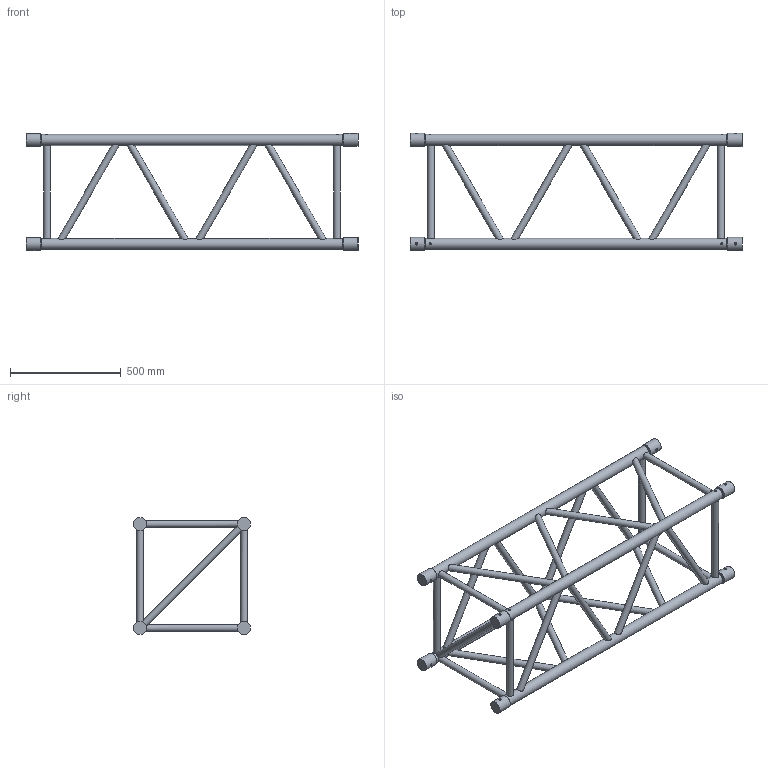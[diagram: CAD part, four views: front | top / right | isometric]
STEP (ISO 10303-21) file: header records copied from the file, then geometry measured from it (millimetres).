
FILE_DESCRIPTION(/* description */ (''),/* implementation_level */ '2;1');
FILE_NAME(/* name */ 'M:\Symbolen_NIEUW\STP\52-er truss\111110109.stp',/* time_stamp */ '2015-04-22T15:30:36+02:00',/* author */ ('Stephan'),/* organization */ (''),/* preprocessor_version */ 'ST-DEVELOPER v15.6',/* originating_system */ 'Autodesk Inventor 2015',/* authorisation */ '');
FILE_SCHEMA (('AUTOMOTIVE_DESIGN { 1 0 10303 214 3 1 1 }'));
Length unit declared in the file: millimetre
Products named in the file (1): 160023939
Bounding box: 1500 x 528.8 x 528.8 mm (x, y, z)
Volume: 20889622.3 mm3; surface area: 2172058.5 mm2
Topology: 2 solids, 6 shells, 302 faces, 714 edges, 432 vertices
Faces by surface type: plane 168, cylinder 94, cone 40
Full cylindrical faces by diameter (mm): 10 x8, 30 x26, 50 x4, 58.8 x8
Entity records: 10925 total; most frequent: CARTESIAN_POINT 4155, DIRECTION 1362, ORIENTED_EDGE 1232, AXIS2_PLACEMENT_3D 615, EDGE_CURVE 588, EDGE_LOOP 432, VERTEX_POINT 384, STYLED_ITEM 287
